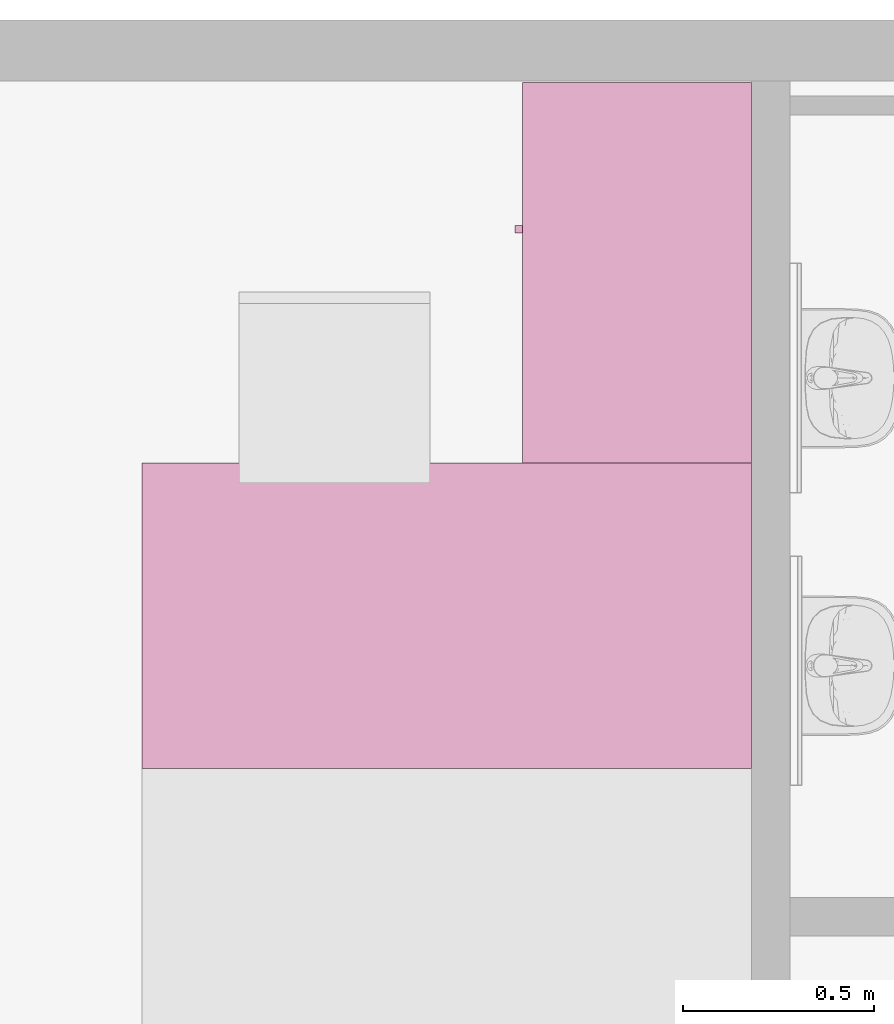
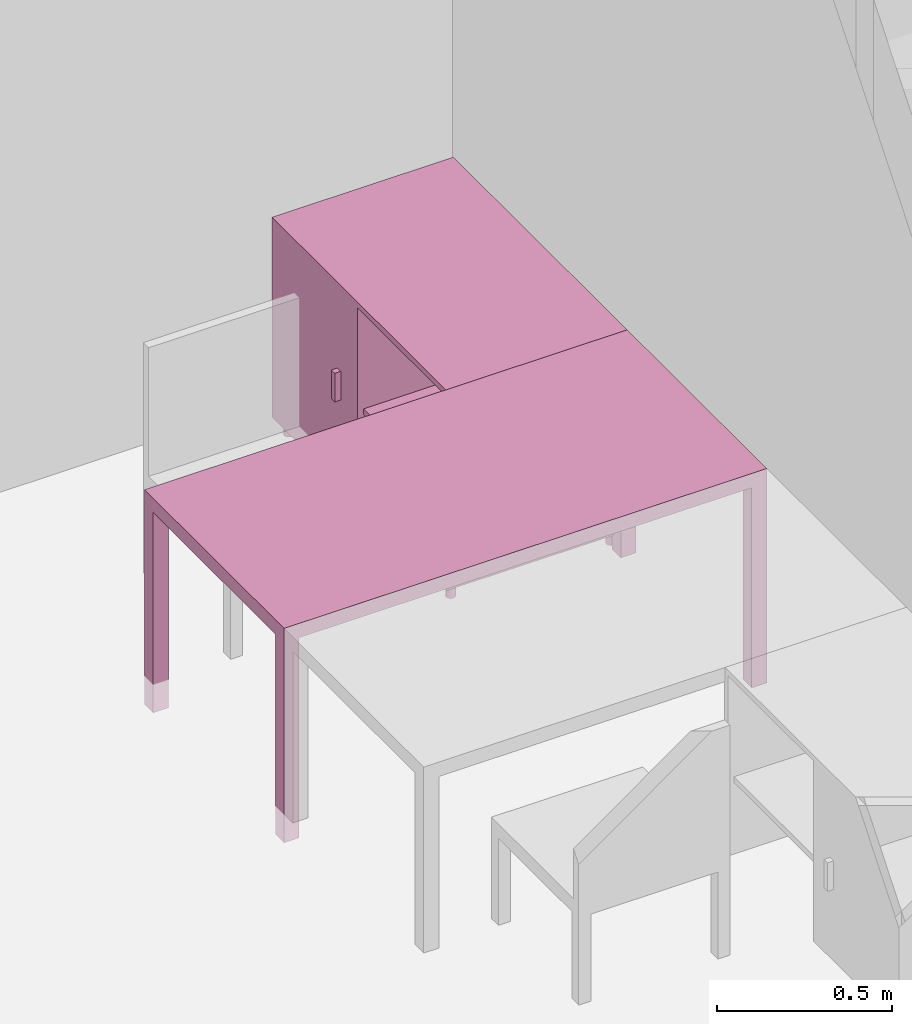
"""IFC4 building model written with IfcOpenShell, lengths in metres."""

from ifc_helpers import new_model, entity, si_unit, converted_unit, derived_unit, frame, origin, place, context, subcontext, project, spatial, faceted_brep, element, save


model = new_model("IFC4")

# Units and contexts
model_context = context("Model", 3, precision=1e-05, world=origin())
body_context = subcontext(model_context, "Body", "Model", "MODEL_VIEW")
ifc_project = project(units=[si_unit("LENGTHUNIT", "METRE"), si_unit("AREAUNIT", "SQUARE_METRE"), si_unit("VOLUMEUNIT", "CUBIC_METRE"), si_unit("MASSUNIT", "GRAM", prefix="KILO"), converted_unit("PLANEANGLEUNIT", "DEGREE", entity("IfcPlaneAngleMeasure", 0.0174532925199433), si_unit("PLANEANGLEUNIT", "RADIAN"), dimensions=[0, 0, 0, 0, 0, 0, 0]), derived_unit("THERMALTRANSMITTANCEUNIT", [(si_unit("POWERUNIT", "WATT"), 1), (si_unit("THERMODYNAMICTEMPERATUREUNIT", "KELVIN"), -1), (si_unit("LENGTHUNIT", "METRE"), -2)]), derived_unit("VOLUMETRICFLOWRATEUNIT", [(si_unit("LENGTHUNIT", "METRE"), 3), (converted_unit("TIMEUNIT", "hour", entity("IfcTimeMeasure", 3600.0), si_unit("TIMEUNIT", "SECOND"), dimensions=[0, 0, 1, 0, 0, 0, 0]), -1), (si_unit("LENGTHUNIT", "METRE"), -1)])], contexts=[model_context])

# Building, storeys
building_placement = place(None, origin())
building = spatial("IfcBuilding", under=ifc_project, at=building_placement, Name="HABITATGE PLURIFAMILIAR", CompositionType="ELEMENT")
storey_1_placement = place(building_placement, frame((0.0, 0.0, 12.27)))
storey_1 = spatial("IfcBuildingStorey", under=building, at=storey_1_placement, Name="PLANTA TERCERA", CompositionType="ELEMENT", Elevation=12.27)
storey_2_placement = place(storey_1_placement, frame((0.0, 0.0, 9.26)))
storey_2 = spatial("IfcBuildingStorey", under=storey_1, at=storey_2_placement, Name="NOU", CompositionType="PARTIAL")

# Furniture
furniture_1_placement = place(storey_2_placement, frame((402.740038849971, 26.2681788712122, -9.3599999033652)))
element("IfcFurniture", 1, at=furniture_1_placement, inside=storey_2, Name="Taula 160X80_P3", context=body_context, shape_type="Brep", body=[
    faceted_brep([(0.05, 0.05, 0.0), (0.0, 0.05, 0.0), (0.0, 0.0, 0.0), (0.05, 0.0, 0.0), (0.05, 0.0, 0.7), (0.0, 0.0, 0.7), (0.0, 0.05, 0.7), (0.05, 0.05, 0.7)], [[[0, 1, 2, 3]], [[4, 5, 6, 7]], [[3, 4, 7, 0]], [[2, 5, 4, 3]], [[1, 6, 5, 2]], [[0, 7, 6, 1]]], orient=[[False], [False], [False], [False], [False], [False]]),
    faceted_brep([(0.05, 0.800069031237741, 0.0), (0.0, 0.800069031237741, 0.0), (0.0, 0.750069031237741, 0.0), (0.05, 0.750069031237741, 0.0), (0.05, 0.750069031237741, 0.7), (0.0, 0.750069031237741, 0.7), (0.0, 0.800069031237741, 0.7), (0.05, 0.800069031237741, 0.7)], [[[0, 1, 2, 3]], [[4, 5, 6, 7]], [[3, 4, 7, 0]], [[2, 5, 4, 3]], [[1, 6, 5, 2]], [[0, 7, 6, 1]]], orient=[[False], [False], [False], [False], [False], [False]]),
    faceted_brep([(1.596945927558, 0.800069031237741, 0.7), (0.0, 0.800069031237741, 0.7), (0.0, 0.0, 0.7), (1.596945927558, 0.0, 0.7), (1.596945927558, 0.0, 0.75), (0.0, 0.0, 0.75), (0.0, 0.800069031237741, 0.75), (1.596945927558, 0.800069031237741, 0.75)], [[[0, 1, 2, 3]], [[4, 5, 6, 7]], [[3, 4, 7, 0]], [[2, 5, 4, 3]], [[1, 6, 5, 2]], [[0, 7, 6, 1]]], orient=[[False], [False], [False], [False], [False], [False]]),
    faceted_brep([(1.596945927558, 0.05, 0.0), (1.546945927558, 0.05, 0.0), (1.546945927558, 0.0, 0.0), (1.596945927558, 0.0, 0.0), (1.596945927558, 0.0, 0.7), (1.546945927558, 0.0, 0.7), (1.546945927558, 0.05, 0.7), (1.596945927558, 0.05, 0.7)], [[[0, 1, 2, 3]], [[4, 5, 6, 7]], [[3, 4, 7, 0]], [[2, 5, 4, 3]], [[1, 6, 5, 2]], [[0, 7, 6, 1]]], orient=[[False], [False], [False], [False], [False], [False]]),
    faceted_brep([(1.596945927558, 0.800069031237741, 0.0), (1.546945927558, 0.800069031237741, 0.0), (1.546945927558, 0.750069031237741, 0.0), (1.596945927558, 0.750069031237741, 0.0), (1.596945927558, 0.750069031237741, 0.7), (1.546945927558, 0.750069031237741, 0.7), (1.546945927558, 0.800069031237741, 0.7), (1.596945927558, 0.800069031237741, 0.7)], [[[0, 1, 2, 3]], [[4, 5, 6, 7]], [[3, 4, 7, 0]], [[2, 5, 4, 3]], [[1, 6, 5, 2]], [[0, 7, 6, 1]]], orient=[[False], [False], [False], [False], [False], [False]]),
])
furniture_2_placement = place(storey_2_placement, frame((403.716984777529, 27.0642218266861, -9.3599999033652)))
element("IfcFurniture", 2, at=furniture_2_placement, inside=storey_2, Name="Taula 100X60_P3", context=body_context, shape_type="Brep", body=[
    faceted_brep([(0.620000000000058, 0.0, 0.05), (0.02, 0.0, 0.05), (0.02, 0.0, 0.07), (0.620000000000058, 0.0, 0.07), (0.02, 1.00000000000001, 0.05), (0.02, 1.00000000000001, 0.07), (0.620000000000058, 1.00000000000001, 0.05), (0.620000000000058, 1.00000000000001, 0.07)], [[[0, 1, 2, 3]], [[1, 4, 5, 2]], [[4, 6, 7, 5]], [[6, 0, 3, 7]], [[0, 6, 4, 1]], [[3, 2, 5, 7]]], orient=[[False], [False], [False], [False], [False], [False]]),
    faceted_brep([(0.04, 0.0, 0.35), (0.62, 0.0, 0.35), (0.62, 1.0, 0.35), (0.04, 1.0, 0.35), (0.62, 0.0, 0.37), (0.04, 0.0, 0.37), (0.04, 1.0, 0.37), (0.62, 1.0, 0.37)], [[[0, 1, 2, 3]], [[4, 5, 6, 7]], [[1, 0, 5, 4]], [[2, 1, 4, 7]], [[3, 2, 7, 6]], [[0, 3, 6, 5]]], orient=[[False], [False], [False], [False], [False], [False]]),
    faceted_brep([(0.04, 0.510000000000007, 0.75), (0.04, 0.510000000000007, 0.05), (0.02, 0.510000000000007, 0.05), (0.02, 0.510000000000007, 0.75), (0.04, 1.00000000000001, 0.05), (0.02, 1.00000000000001, 0.05), (0.04, 1.00000000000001, 0.75), (0.02, 1.00000000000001, 0.75)], [[[0, 1, 2, 3]], [[1, 4, 5, 2]], [[4, 6, 7, 5]], [[6, 0, 3, 7]], [[0, 6, 4, 1]], [[3, 2, 5, 7]]], orient=[[False], [False], [False], [False], [False], [False]]),
    faceted_brep([(0.62, 0.0200000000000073, 0.75), (0.620000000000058, 0.0200000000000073, 0.0499999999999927), (0.620000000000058, 0.0, 0.0499999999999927), (0.62, 0.0, 0.75), (0.02, 0.0200000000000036, 0.05), (0.02, 0.0, 0.05), (0.02, 0.0200000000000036, 0.75), (0.02, 0.0, 0.75)], [[[0, 1, 2, 3]], [[1, 4, 5, 2]], [[4, 6, 7, 5]], [[6, 0, 3, 7]], [[0, 6, 4, 1]], [[3, 2, 5, 7]]], orient=[[False], [False], [False], [False], [False], [False]]),
    faceted_brep([(0.62, 0.530000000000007, 0.75), (0.620000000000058, 0.530000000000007, 0.0499999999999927), (0.620000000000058, 0.510000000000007, 0.0499999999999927), (0.62, 0.510000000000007, 0.75), (0.02, 0.530000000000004, 0.05), (0.02, 0.510000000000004, 0.05), (0.02, 0.530000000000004, 0.75), (0.02, 0.510000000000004, 0.75)], [[[0, 1, 2, 3]], [[1, 4, 5, 2]], [[4, 6, 7, 5]], [[6, 0, 3, 7]], [[0, 6, 4, 1]], [[3, 2, 5, 7]]], orient=[[False], [False], [False], [False], [False], [False]]),
    faceted_brep([(0.620000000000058, 0.530000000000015, 0.750000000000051), (0.620000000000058, 0.530000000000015, 0.0499999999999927), (0.620000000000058, 0.510000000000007, 0.0499999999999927), (0.620000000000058, 0.510000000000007, 0.750000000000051), (0.0400000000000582, 0.530000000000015, 0.0499999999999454), (0.0400000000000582, 0.510000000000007, 0.0499999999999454), (0.04, 0.530000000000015, 0.750000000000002), (0.04, 0.510000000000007, 0.750000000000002)], [[[0, 1, 2, 3]], [[1, 4, 5, 2]], [[4, 6, 7, 5]], [[6, 0, 3, 7]], [[0, 6, 4, 1]], [[3, 2, 5, 7]]], orient=[[False], [False], [False], [False], [False], [False]]),
    faceted_brep([(0.62, 1.00000000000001, 0.75), (0.620000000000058, 1.00000000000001, 0.0499999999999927), (0.620000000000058, 0.980000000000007, 0.0499999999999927), (0.62, 0.980000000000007, 0.75), (0.02, 1.0, 0.05), (0.02, 0.980000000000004, 0.05), (0.02, 1.0, 0.75), (0.02, 0.980000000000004, 0.75)], [[[0, 1, 2, 3]], [[1, 4, 5, 2]], [[4, 6, 7, 5]], [[6, 0, 3, 7]], [[0, 6, 4, 1]], [[3, 2, 5, 7]]], orient=[[False], [False], [False], [False], [False], [False]]),
    faceted_brep([(0.620000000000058, 0.0, 0.73), (0.02, 0.0, 0.73), (0.02, 0.0, 0.75), (0.620000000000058, 0.0, 0.75), (0.02, 1.00000000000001, 0.73), (0.02, 1.00000000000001, 0.75), (0.620000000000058, 1.00000000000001, 0.73), (0.620000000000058, 1.00000000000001, 0.75)], [[[0, 1, 2, 3]], [[1, 4, 5, 2]], [[4, 6, 7, 5]], [[6, 0, 3, 7]], [[0, 6, 4, 1]], [[3, 2, 5, 7]]], orient=[[False], [False], [False], [False], [False], [False]]),
    faceted_brep([(0.62, 0.0200000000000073, 0.75), (0.62, 0.0200000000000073, 0.05), (0.6, 0.0200000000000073, 0.05), (0.6, 0.0200000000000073, 0.75), (0.62, 1.00000000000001, 0.05), (0.6, 1.00000000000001, 0.05), (0.62, 1.00000000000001, 0.75), (0.6, 1.00000000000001, 0.75)], [[[0, 1, 2, 3]], [[1, 4, 5, 2]], [[4, 6, 7, 5]], [[6, 0, 3, 7]], [[0, 6, 4, 1]], [[3, 2, 5, 7]]], orient=[[False], [False], [False], [False], [False], [False]]),
    faceted_brep([(0.02, 0.625579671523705, 0.35), (0.0, 0.625579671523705, 0.35), (0.0, 0.605579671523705, 0.35), (0.02, 0.605579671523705, 0.35), (0.02, 0.605579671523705, 0.45), (0.0, 0.605579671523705, 0.45), (0.0, 0.625579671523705, 0.45), (0.02, 0.625579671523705, 0.45)], [[[0, 1, 2, 3]], [[4, 5, 6, 7]], [[3, 4, 7, 0]], [[2, 5, 4, 3]], [[1, 6, 5, 2]], [[0, 7, 6, 1]]], orient=[[False], [False], [False], [False], [False], [False]]),
    faceted_brep([(0.583821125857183, 0.0499366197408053, 0.0), (0.581227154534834, 0.0497096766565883, 0.0), (0.578711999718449, 0.0490357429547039, 0.0), (0.5763520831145, 0.047935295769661, 0.0), (0.574219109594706, 0.0464417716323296, 0.0), (0.57237788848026, 0.0446005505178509, 0.0), (0.570884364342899, 0.0424675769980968, 0.0), (0.569783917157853, 0.0401076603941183, 0.0), (0.569109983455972, 0.0375925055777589, 0.0), (0.568883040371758, 0.0349985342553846, 0.0), (0.569109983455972, 0.0324045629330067, 0.0), (0.569783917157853, 0.0298894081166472, 0.0), (0.570884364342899, 0.0275294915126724, 0.0), (0.57237788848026, 0.0253965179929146, 0.0), (0.574219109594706, 0.0235552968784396, 0.0), (0.5763520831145, 0.0220617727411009, 0.0), (0.578711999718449, 0.0209613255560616, 0.0), (0.581227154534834, 0.0202873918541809, 0.0), (0.583821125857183, 0.0200604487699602, 0.0), (0.586415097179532, 0.0202873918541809, 0.0), (0.588930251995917, 0.0209613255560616, 0.0), (0.591290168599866, 0.0220617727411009, 0.0), (0.59342314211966, 0.0235552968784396, 0.0), (0.595264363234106, 0.0253965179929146, 0.0), (0.596757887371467, 0.0275294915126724, 0.0), (0.597858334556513, 0.0298894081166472, 0.0), (0.598532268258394, 0.0324045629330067, 0.0), (0.598759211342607, 0.0349985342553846, 0.0), (0.598532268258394, 0.0375925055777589, 0.0), (0.597858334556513, 0.0401076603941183, 0.0), (0.596757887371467, 0.0424675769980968, 0.0), (0.595264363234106, 0.0446005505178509, 0.0), (0.59342314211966, 0.0464417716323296, 0.0), (0.591290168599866, 0.047935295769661, 0.0), (0.588930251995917, 0.0490357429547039, 0.0), (0.586415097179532, 0.0497096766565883, 0.0), (0.583821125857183, 0.0499366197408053, 0.05), (0.586415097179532, 0.0497096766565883, 0.05), (0.588930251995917, 0.0490357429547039, 0.05), (0.591290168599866, 0.047935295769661, 0.05), (0.59342314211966, 0.0464417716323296, 0.05), (0.595264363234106, 0.0446005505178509, 0.05), (0.596757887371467, 0.0424675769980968, 0.05), (0.597858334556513, 0.0401076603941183, 0.05), (0.598532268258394, 0.0375925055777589, 0.05), (0.598759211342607, 0.0349985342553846, 0.05), (0.598532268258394, 0.0324045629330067, 0.05), (0.597858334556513, 0.0298894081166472, 0.05), (0.596757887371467, 0.0275294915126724, 0.05), (0.595264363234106, 0.0253965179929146, 0.05), (0.59342314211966, 0.0235552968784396, 0.05), (0.591290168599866, 0.0220617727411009, 0.05), (0.588930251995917, 0.0209613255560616, 0.05), (0.586415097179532, 0.0202873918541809, 0.05), (0.583821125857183, 0.0200604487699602, 0.05), (0.581227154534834, 0.0202873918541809, 0.05), (0.578711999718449, 0.0209613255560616, 0.05), (0.5763520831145, 0.0220617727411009, 0.05), (0.574219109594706, 0.0235552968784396, 0.05), (0.57237788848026, 0.0253965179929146, 0.05), (0.570884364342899, 0.0275294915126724, 0.05), (0.569783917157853, 0.0298894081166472, 0.05), (0.569109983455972, 0.0324045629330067, 0.05), (0.568883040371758, 0.0349985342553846, 0.05), (0.569109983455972, 0.0375925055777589, 0.05), (0.569783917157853, 0.0401076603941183, 0.05), (0.570884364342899, 0.0424675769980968, 0.05), (0.57237788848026, 0.0446005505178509, 0.05), (0.574219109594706, 0.0464417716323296, 0.05), (0.5763520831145, 0.047935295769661, 0.05), (0.578711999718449, 0.0490357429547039, 0.05), (0.581227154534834, 0.0497096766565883, 0.05)], [[[0, 1, 2, 3, 4, 5, 6, 7, 8, 9, 10, 11, 12, 13, 14, 15, 16, 17, 18, 19, 20, 21, 22, 23, 24, 25, 26, 27, 28, 29, 30, 31, 32, 33, 34, 35]], [[36, 37, 38, 39, 40, 41, 42, 43, 44, 45, 46, 47, 48, 49, 50, 51, 52, 53, 54, 55, 56, 57, 58, 59, 60, 61, 62, 63, 64, 65, 66, 67, 68, 69, 70, 71]], [[1, 0, 36, 71]], [[2, 1, 71, 70]], [[3, 2, 70, 69]], [[4, 3, 69, 68]], [[5, 4, 68, 67]], [[6, 5, 67, 66]], [[7, 6, 66, 65]], [[8, 7, 65, 64]], [[9, 8, 64, 63]], [[10, 9, 63, 62]], [[11, 10, 62, 61]], [[12, 11, 61, 60]], [[13, 12, 60, 59]], [[14, 13, 59, 58]], [[15, 14, 58, 57]], [[16, 15, 57, 56]], [[17, 16, 56, 55]], [[18, 17, 55, 54]], [[19, 18, 54, 53]], [[20, 19, 53, 52]], [[21, 20, 52, 51]], [[22, 21, 51, 50]], [[23, 22, 50, 49]], [[24, 23, 49, 48]], [[25, 24, 48, 47]], [[26, 25, 47, 46]], [[27, 26, 46, 45]], [[28, 27, 45, 44]], [[29, 28, 44, 43]], [[30, 29, 43, 42]], [[31, 30, 42, 41]], [[32, 31, 41, 40]], [[33, 32, 40, 39]], [[34, 33, 39, 38]], [[35, 34, 38, 37]], [[0, 35, 37, 36]]], orient=[[False], [False], [False], [False], [False], [False], [False], [False], [False], [False], [False], [False], [False], [False], [False], [False], [False], [False], [False], [False], [False], [False], [False], [False], [False], [False], [False], [False], [False], [False], [False], [False], [False], [False], [False], [False], [False], [False]]),
    faceted_brep([(0.0538211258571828, 0.0499366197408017, 0.0), (0.051227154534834, 0.0497096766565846, 0.0), (0.0487119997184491, 0.0490357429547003, 0.0), (0.0463520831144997, 0.047935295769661, 0.0), (0.0442191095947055, 0.046441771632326, 0.0), (0.0423778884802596, 0.0446005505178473, 0.0), (0.0408843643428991, 0.0424675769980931, 0.0), (0.0397839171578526, 0.0401076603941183, 0.0), (0.0391099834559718, 0.0375925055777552, 0.0), (0.0388830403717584, 0.0349985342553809, 0.0), (0.0391099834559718, 0.0324045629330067, 0.0), (0.0397839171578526, 0.0298894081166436, 0.0), (0.0408843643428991, 0.0275294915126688, 0.0), (0.0423778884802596, 0.0253965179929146, 0.0), (0.0442191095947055, 0.0235552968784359, 0.0), (0.0463520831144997, 0.0220617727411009, 0.0), (0.0487119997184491, 0.0209613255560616, 0.0), (0.051227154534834, 0.0202873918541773, 0.0), (0.0538211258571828, 0.0200604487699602, 0.0), (0.0564150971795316, 0.0202873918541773, 0.0), (0.0589302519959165, 0.0209613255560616, 0.0), (0.0612901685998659, 0.0220617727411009, 0.0), (0.06342314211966, 0.0235552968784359, 0.0), (0.065264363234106, 0.0253965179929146, 0.0), (0.0667578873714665, 0.0275294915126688, 0.0), (0.067858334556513, 0.0298894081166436, 0.0), (0.0685322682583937, 0.0324045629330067, 0.0), (0.0687592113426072, 0.0349985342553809, 0.0), (0.0685322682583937, 0.0375925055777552, 0.0), (0.067858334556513, 0.0401076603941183, 0.0), (0.0667578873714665, 0.0424675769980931, 0.0), (0.065264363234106, 0.0446005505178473, 0.0), (0.06342314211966, 0.046441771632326, 0.0), (0.0612901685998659, 0.047935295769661, 0.0), (0.0589302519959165, 0.0490357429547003, 0.0), (0.0564150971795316, 0.0497096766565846, 0.0), (0.0538211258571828, 0.0499366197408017, 0.05), (0.0564150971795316, 0.0497096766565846, 0.05), (0.0589302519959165, 0.0490357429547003, 0.05), (0.0612901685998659, 0.047935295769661, 0.05), (0.06342314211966, 0.046441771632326, 0.05), (0.065264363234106, 0.0446005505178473, 0.05), (0.0667578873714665, 0.0424675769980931, 0.05), (0.067858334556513, 0.0401076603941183, 0.05), (0.0685322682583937, 0.0375925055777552, 0.05), (0.0687592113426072, 0.0349985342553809, 0.05), (0.0685322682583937, 0.0324045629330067, 0.05), (0.067858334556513, 0.0298894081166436, 0.05), (0.0667578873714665, 0.0275294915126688, 0.05), (0.065264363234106, 0.0253965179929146, 0.05), (0.06342314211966, 0.0235552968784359, 0.05), (0.0612901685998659, 0.0220617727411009, 0.05), (0.0589302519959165, 0.0209613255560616, 0.05), (0.0564150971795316, 0.0202873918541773, 0.05), (0.0538211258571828, 0.0200604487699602, 0.05), (0.051227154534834, 0.0202873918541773, 0.05), (0.0487119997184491, 0.0209613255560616, 0.05), (0.0463520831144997, 0.0220617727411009, 0.05), (0.0442191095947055, 0.0235552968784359, 0.05), (0.0423778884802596, 0.0253965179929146, 0.05), (0.0408843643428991, 0.0275294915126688, 0.05), (0.0397839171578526, 0.0298894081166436, 0.05), (0.0391099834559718, 0.0324045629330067, 0.05), (0.0388830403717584, 0.0349985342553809, 0.05), (0.0391099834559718, 0.0375925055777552, 0.05), (0.0397839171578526, 0.0401076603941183, 0.05), (0.0408843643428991, 0.0424675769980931, 0.05), (0.0423778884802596, 0.0446005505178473, 0.05), (0.0442191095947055, 0.046441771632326, 0.05), (0.0463520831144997, 0.047935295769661, 0.05), (0.0487119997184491, 0.0490357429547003, 0.05), (0.051227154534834, 0.0497096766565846, 0.05)], [[[0, 1, 2, 3, 4, 5, 6, 7, 8, 9, 10, 11, 12, 13, 14, 15, 16, 17, 18, 19, 20, 21, 22, 23, 24, 25, 26, 27, 28, 29, 30, 31, 32, 33, 34, 35]], [[36, 37, 38, 39, 40, 41, 42, 43, 44, 45, 46, 47, 48, 49, 50, 51, 52, 53, 54, 55, 56, 57, 58, 59, 60, 61, 62, 63, 64, 65, 66, 67, 68, 69, 70, 71]], [[1, 0, 36, 71]], [[2, 1, 71, 70]], [[3, 2, 70, 69]], [[4, 3, 69, 68]], [[5, 4, 68, 67]], [[6, 5, 67, 66]], [[7, 6, 66, 65]], [[8, 7, 65, 64]], [[9, 8, 64, 63]], [[10, 9, 63, 62]], [[11, 10, 62, 61]], [[12, 11, 61, 60]], [[13, 12, 60, 59]], [[14, 13, 59, 58]], [[15, 14, 58, 57]], [[16, 15, 57, 56]], [[17, 16, 56, 55]], [[18, 17, 55, 54]], [[19, 18, 54, 53]], [[20, 19, 53, 52]], [[21, 20, 52, 51]], [[22, 21, 51, 50]], [[23, 22, 50, 49]], [[24, 23, 49, 48]], [[25, 24, 48, 47]], [[26, 25, 47, 46]], [[27, 26, 46, 45]], [[28, 27, 45, 44]], [[29, 28, 44, 43]], [[30, 29, 43, 42]], [[31, 30, 42, 41]], [[32, 31, 41, 40]], [[33, 32, 40, 39]], [[34, 33, 39, 38]], [[35, 34, 38, 37]], [[0, 35, 37, 36]]], orient=[[False], [False], [False], [False], [False], [False], [False], [False], [False], [False], [False], [False], [False], [False], [False], [False], [False], [False], [False], [False], [False], [False], [False], [False], [False], [False], [False], [False], [False], [False], [False], [False], [False], [False], [False], [False], [False], [False]]),
    faceted_brep([(0.0550000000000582, 0.97998298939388, 0.0), (0.0524060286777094, 0.979756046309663, 0.0), (0.0498908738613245, 0.979082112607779, 0.0), (0.0475309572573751, 0.97798166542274, 0.0), (0.0453979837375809, 0.976488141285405, 0.0), (0.043556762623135, 0.974646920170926, 0.0), (0.0420632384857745, 0.972513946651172, 0.0), (0.040962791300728, 0.970154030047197, 0.0), (0.0402888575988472, 0.967638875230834, 0.0), (0.0400619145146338, 0.96504490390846, 0.0), (0.0402888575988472, 0.962450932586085, 0.0), (0.040962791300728, 0.959935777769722, 0.0), (0.0420632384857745, 0.957575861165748, 0.0), (0.043556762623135, 0.955442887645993, 0.0), (0.0453979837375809, 0.953601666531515, 0.0), (0.0475309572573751, 0.95210814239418, 0.0), (0.0498908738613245, 0.95100769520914, 0.0), (0.0524060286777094, 0.950333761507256, 0.0), (0.0550000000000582, 0.950106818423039, 0.0), (0.057593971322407, 0.950333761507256, 0.0), (0.0601091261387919, 0.95100769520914, 0.0), (0.0624690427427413, 0.95210814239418, 0.0), (0.0646020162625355, 0.953601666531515, 0.0), (0.0664432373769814, 0.955442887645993, 0.0), (0.0679367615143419, 0.957575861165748, 0.0), (0.0690372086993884, 0.959935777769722, 0.0), (0.0697111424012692, 0.962450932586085, 0.0), (0.0699380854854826, 0.96504490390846, 0.0), (0.0697111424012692, 0.967638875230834, 0.0), (0.0690372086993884, 0.970154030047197, 0.0), (0.0679367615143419, 0.972513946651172, 0.0), (0.0664432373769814, 0.974646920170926, 0.0), (0.0646020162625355, 0.976488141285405, 0.0), (0.0624690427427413, 0.97798166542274, 0.0), (0.0601091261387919, 0.979082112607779, 0.0), (0.057593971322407, 0.979756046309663, 0.0), (0.0550000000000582, 0.97998298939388, 0.05), (0.057593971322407, 0.979756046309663, 0.05), (0.0601091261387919, 0.979082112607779, 0.05), (0.0624690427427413, 0.97798166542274, 0.05), (0.0646020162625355, 0.976488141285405, 0.05), (0.0664432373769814, 0.974646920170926, 0.05), (0.0679367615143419, 0.972513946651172, 0.05), (0.0690372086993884, 0.970154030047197, 0.05), (0.0697111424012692, 0.967638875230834, 0.05), (0.0699380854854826, 0.96504490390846, 0.05), (0.0697111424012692, 0.962450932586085, 0.05), (0.0690372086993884, 0.959935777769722, 0.05), (0.0679367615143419, 0.957575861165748, 0.05), (0.0664432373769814, 0.955442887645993, 0.05), (0.0646020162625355, 0.953601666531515, 0.05), (0.0624690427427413, 0.95210814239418, 0.05), (0.0601091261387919, 0.95100769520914, 0.05), (0.057593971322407, 0.950333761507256, 0.05), (0.0550000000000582, 0.950106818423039, 0.05), (0.0524060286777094, 0.950333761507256, 0.05), (0.0498908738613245, 0.95100769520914, 0.05), (0.0475309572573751, 0.95210814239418, 0.05), (0.0453979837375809, 0.953601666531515, 0.05), (0.043556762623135, 0.955442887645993, 0.05), (0.0420632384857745, 0.957575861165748, 0.05), (0.040962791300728, 0.959935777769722, 0.05), (0.0402888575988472, 0.962450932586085, 0.05), (0.0400619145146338, 0.96504490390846, 0.05), (0.0402888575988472, 0.967638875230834, 0.05), (0.040962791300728, 0.970154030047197, 0.05), (0.0420632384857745, 0.972513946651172, 0.05), (0.043556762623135, 0.974646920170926, 0.05), (0.0453979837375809, 0.976488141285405, 0.05), (0.0475309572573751, 0.97798166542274, 0.05), (0.0498908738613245, 0.979082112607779, 0.05), (0.0524060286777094, 0.979756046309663, 0.05)], [[[0, 1, 2, 3, 4, 5, 6, 7, 8, 9, 10, 11, 12, 13, 14, 15, 16, 17, 18, 19, 20, 21, 22, 23, 24, 25, 26, 27, 28, 29, 30, 31, 32, 33, 34, 35]], [[36, 37, 38, 39, 40, 41, 42, 43, 44, 45, 46, 47, 48, 49, 50, 51, 52, 53, 54, 55, 56, 57, 58, 59, 60, 61, 62, 63, 64, 65, 66, 67, 68, 69, 70, 71]], [[1, 0, 36, 71]], [[2, 1, 71, 70]], [[3, 2, 70, 69]], [[4, 3, 69, 68]], [[5, 4, 68, 67]], [[6, 5, 67, 66]], [[7, 6, 66, 65]], [[8, 7, 65, 64]], [[9, 8, 64, 63]], [[10, 9, 63, 62]], [[11, 10, 62, 61]], [[12, 11, 61, 60]], [[13, 12, 60, 59]], [[14, 13, 59, 58]], [[15, 14, 58, 57]], [[16, 15, 57, 56]], [[17, 16, 56, 55]], [[18, 17, 55, 54]], [[19, 18, 54, 53]], [[20, 19, 53, 52]], [[21, 20, 52, 51]], [[22, 21, 51, 50]], [[23, 22, 50, 49]], [[24, 23, 49, 48]], [[25, 24, 48, 47]], [[26, 25, 47, 46]], [[27, 26, 46, 45]], [[28, 27, 45, 44]], [[29, 28, 44, 43]], [[30, 29, 43, 42]], [[31, 30, 42, 41]], [[32, 31, 41, 40]], [[33, 32, 40, 39]], [[34, 33, 39, 38]], [[35, 34, 38, 37]], [[0, 35, 37, 36]]], orient=[[False], [False], [False], [False], [False], [False], [False], [False], [False], [False], [False], [False], [False], [False], [False], [False], [False], [False], [False], [False], [False], [False], [False], [False], [False], [False], [False], [False], [False], [False], [False], [False], [False], [False], [False], [False], [False], [False]]),
    faceted_brep([(0.585033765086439, 0.979647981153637, 0.0), (0.58243979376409, 0.97942103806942, 0.0), (0.579924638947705, 0.978747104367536, 0.0), (0.577564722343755, 0.977646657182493, 0.0), (0.575431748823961, 0.976153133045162, 0.0), (0.573590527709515, 0.974311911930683, 0.0), (0.572097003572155, 0.972178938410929, 0.0), (0.570996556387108, 0.96981902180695, 0.0), (0.570322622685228, 0.967303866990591, 0.0), (0.570095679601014, 0.964709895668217, 0.0), (0.570322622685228, 0.962115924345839, 0.0), (0.570996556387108, 0.959600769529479, 0.0), (0.572097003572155, 0.957240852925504, 0.0), (0.573590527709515, 0.955107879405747, 0.0), (0.575431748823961, 0.953266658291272, 0.0), (0.577564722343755, 0.951773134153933, 0.0), (0.579924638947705, 0.950672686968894, 0.0), (0.58243979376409, 0.949998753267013, 0.0), (0.585033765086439, 0.949771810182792, 0.0), (0.587627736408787, 0.949998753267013, 0.0), (0.590142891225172, 0.950672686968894, 0.0), (0.592502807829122, 0.951773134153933, 0.0), (0.594635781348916, 0.953266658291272, 0.0), (0.596477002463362, 0.955107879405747, 0.0), (0.597970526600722, 0.957240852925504, 0.0), (0.599070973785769, 0.959600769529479, 0.0), (0.59974490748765, 0.962115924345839, 0.0), (0.599971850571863, 0.964709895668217, 0.0), (0.59974490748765, 0.967303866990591, 0.0), (0.599070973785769, 0.96981902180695, 0.0), (0.597970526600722, 0.972178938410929, 0.0), (0.596477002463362, 0.974311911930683, 0.0), (0.594635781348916, 0.976153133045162, 0.0), (0.592502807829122, 0.977646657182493, 0.0), (0.590142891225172, 0.978747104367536, 0.0), (0.587627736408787, 0.97942103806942, 0.0), (0.585033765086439, 0.979647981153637, 0.05), (0.587627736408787, 0.97942103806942, 0.05), (0.590142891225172, 0.978747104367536, 0.05), (0.592502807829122, 0.977646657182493, 0.05), (0.594635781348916, 0.976153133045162, 0.05), (0.596477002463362, 0.974311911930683, 0.05), (0.597970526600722, 0.972178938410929, 0.05), (0.599070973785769, 0.96981902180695, 0.05), (0.59974490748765, 0.967303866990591, 0.05), (0.599971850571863, 0.964709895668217, 0.05), (0.59974490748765, 0.962115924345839, 0.05), (0.599070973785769, 0.959600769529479, 0.05), (0.597970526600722, 0.957240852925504, 0.05), (0.596477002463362, 0.955107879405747, 0.05), (0.594635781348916, 0.953266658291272, 0.05), (0.592502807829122, 0.951773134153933, 0.05), (0.590142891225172, 0.950672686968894, 0.05), (0.587627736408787, 0.949998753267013, 0.05), (0.585033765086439, 0.949771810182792, 0.05), (0.58243979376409, 0.949998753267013, 0.05), (0.579924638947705, 0.950672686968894, 0.05), (0.577564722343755, 0.951773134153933, 0.05), (0.575431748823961, 0.953266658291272, 0.05), (0.573590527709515, 0.955107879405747, 0.05), (0.572097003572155, 0.957240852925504, 0.05), (0.570996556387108, 0.959600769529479, 0.05), (0.570322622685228, 0.962115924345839, 0.05), (0.570095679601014, 0.964709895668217, 0.05), (0.570322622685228, 0.967303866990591, 0.05), (0.570996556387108, 0.96981902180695, 0.05), (0.572097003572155, 0.972178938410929, 0.05), (0.573590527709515, 0.974311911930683, 0.05), (0.575431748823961, 0.976153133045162, 0.05), (0.577564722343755, 0.977646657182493, 0.05), (0.579924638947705, 0.978747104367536, 0.05), (0.58243979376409, 0.97942103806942, 0.05)], [[[0, 1, 2, 3, 4, 5, 6, 7, 8, 9, 10, 11, 12, 13, 14, 15, 16, 17, 18, 19, 20, 21, 22, 23, 24, 25, 26, 27, 28, 29, 30, 31, 32, 33, 34, 35]], [[36, 37, 38, 39, 40, 41, 42, 43, 44, 45, 46, 47, 48, 49, 50, 51, 52, 53, 54, 55, 56, 57, 58, 59, 60, 61, 62, 63, 64, 65, 66, 67, 68, 69, 70, 71]], [[1, 0, 36, 71]], [[2, 1, 71, 70]], [[3, 2, 70, 69]], [[4, 3, 69, 68]], [[5, 4, 68, 67]], [[6, 5, 67, 66]], [[7, 6, 66, 65]], [[8, 7, 65, 64]], [[9, 8, 64, 63]], [[10, 9, 63, 62]], [[11, 10, 62, 61]], [[12, 11, 61, 60]], [[13, 12, 60, 59]], [[14, 13, 59, 58]], [[15, 14, 58, 57]], [[16, 15, 57, 56]], [[17, 16, 56, 55]], [[18, 17, 55, 54]], [[19, 18, 54, 53]], [[20, 19, 53, 52]], [[21, 20, 52, 51]], [[22, 21, 51, 50]], [[23, 22, 50, 49]], [[24, 23, 49, 48]], [[25, 24, 48, 47]], [[26, 25, 47, 46]], [[27, 26, 46, 45]], [[28, 27, 45, 44]], [[29, 28, 44, 43]], [[30, 29, 43, 42]], [[31, 30, 42, 41]], [[32, 31, 41, 40]], [[33, 32, 40, 39]], [[34, 33, 39, 38]], [[35, 34, 38, 37]], [[0, 35, 37, 36]]], orient=[[False], [False], [False], [False], [False], [False], [False], [False], [False], [False], [False], [False], [False], [False], [False], [False], [False], [False], [False], [False], [False], [False], [False], [False], [False], [False], [False], [False], [False], [False], [False], [False], [False], [False], [False], [False], [False], [False]]),
])

save(model, "model.ifc")
